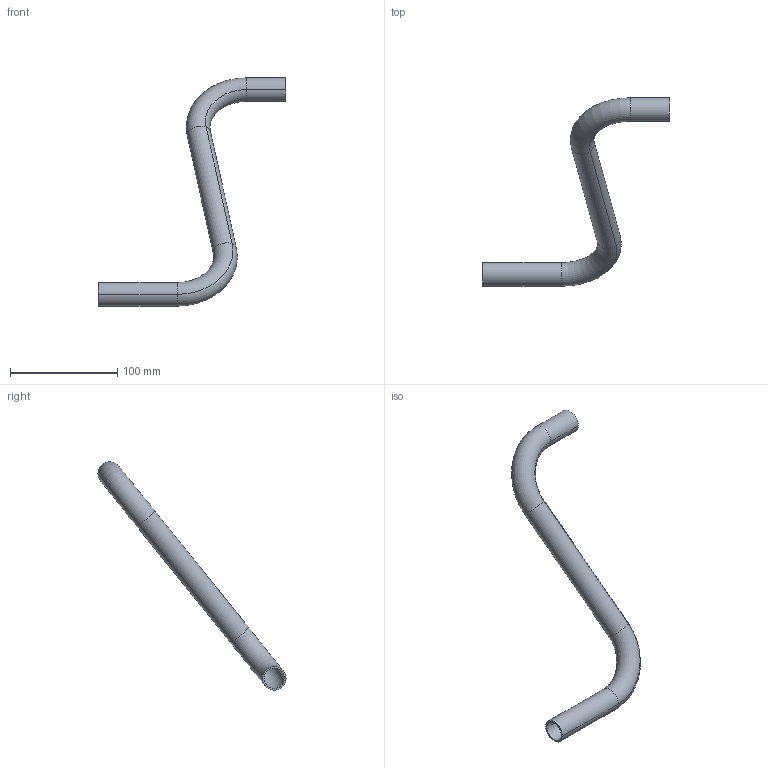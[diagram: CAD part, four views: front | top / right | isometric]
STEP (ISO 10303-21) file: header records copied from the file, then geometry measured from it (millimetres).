
FILE_DESCRIPTION(('CATIA V5 STEP Exchange','CAx-IF Rec.Pracs.--- Model Styling and Organization---1.2---2011-12-15'),'2;1');
FILE_NAME('c:\aplikace\smarteam\Temp\DO584416.step','2016-06-24T11:02:59+00:00',('none'),('none'),'CATIA Version 5 Release 21 SP 6 (IN-10)','CATIA V5 STEP AP214','none');
FILE_SCHEMA(('AUTOMOTIVE_DESIGN { 1 0 10303 214 1 1 1 1 }'));
Length unit declared in the file: millimetre
Products named in the file (1): DO584416, TRUBKA T2
Bounding box: 174.4 x 175.67 x 213.17 mm (x, y, z)
Volume: 39495.4 mm3; surface area: 52853.7 mm2
Topology: 1 solids, 1 shells, 22 faces, 44 edges, 24 vertices
Faces by surface type: cylinder 12, torus 8, plane 2
Entity records: 515 total; most frequent: ORIENTED_EDGE 88, CARTESIAN_POINT 81, DIRECTION 68, AXIS2_PLACEMENT_3D 45, EDGE_CURVE 44, CIRCLE 32, EDGE_LOOP 24, VERTEX_POINT 24
